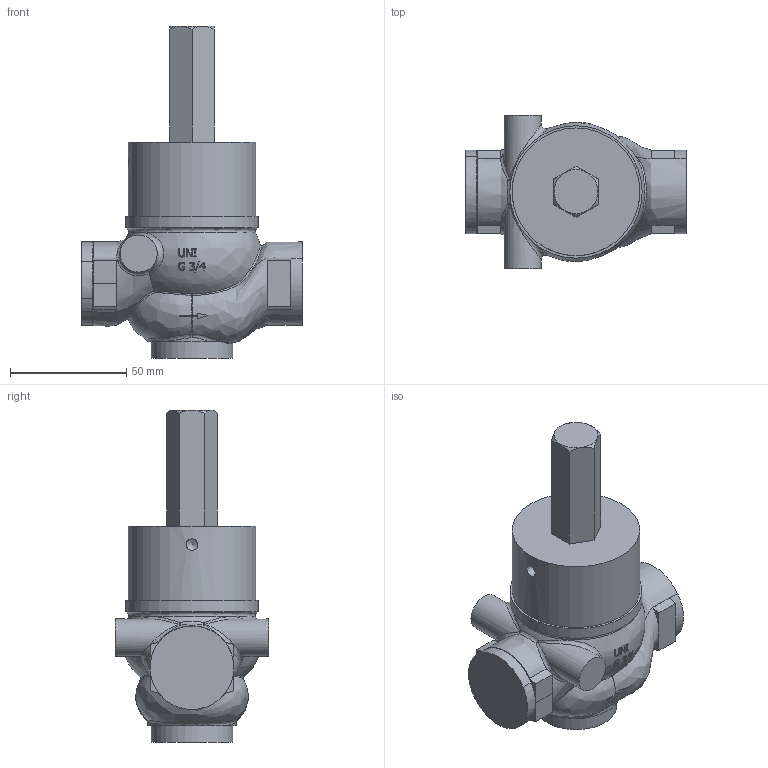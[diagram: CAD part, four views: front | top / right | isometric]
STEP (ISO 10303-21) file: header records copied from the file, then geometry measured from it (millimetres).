
FILE_DESCRIPTION((''),'2;1');
FILE_NAME('G:\CAD-Download\MEA\10-MEA\DN 20\10-MEA 7-4.stp','2010-05-19T11:59:03',('hb'),(''),'Autodesk Inventor 2008','Autodesk Inventor 2008','');
FILE_SCHEMA(('AUTOMOTIVE_DESIGN { 1 0 10303 214 1 1 1 1 }'));
Length unit declared in the file: millimetre
Products named in the file (1): 10-MEA 7-4
Bounding box: 95 x 66 x 143 mm (x, y, z)
Volume: 275825.2 mm3; surface area: 31055.9 mm2
Topology: 1 solids, 1 shells, 368 faces, 1015 edges, 656 vertices
Faces by surface type: plane 177, bspline 176, cylinder 13, cone 2
Full cylindrical faces by diameter (mm): 16 x2, 35 x1, 55 x1, 57 x1
Entity records: 21252 total; most frequent: CARTESIAN_POINT 13038, ORIENTED_EDGE 1996, DIRECTION 1012, EDGE_CURVE 998, VERTEX_POINT 650, B_SPLINE_CURVE_WITH_KNOTS 534, EDGE_LOOP 398, FACE_OUTER_BOUND 368
